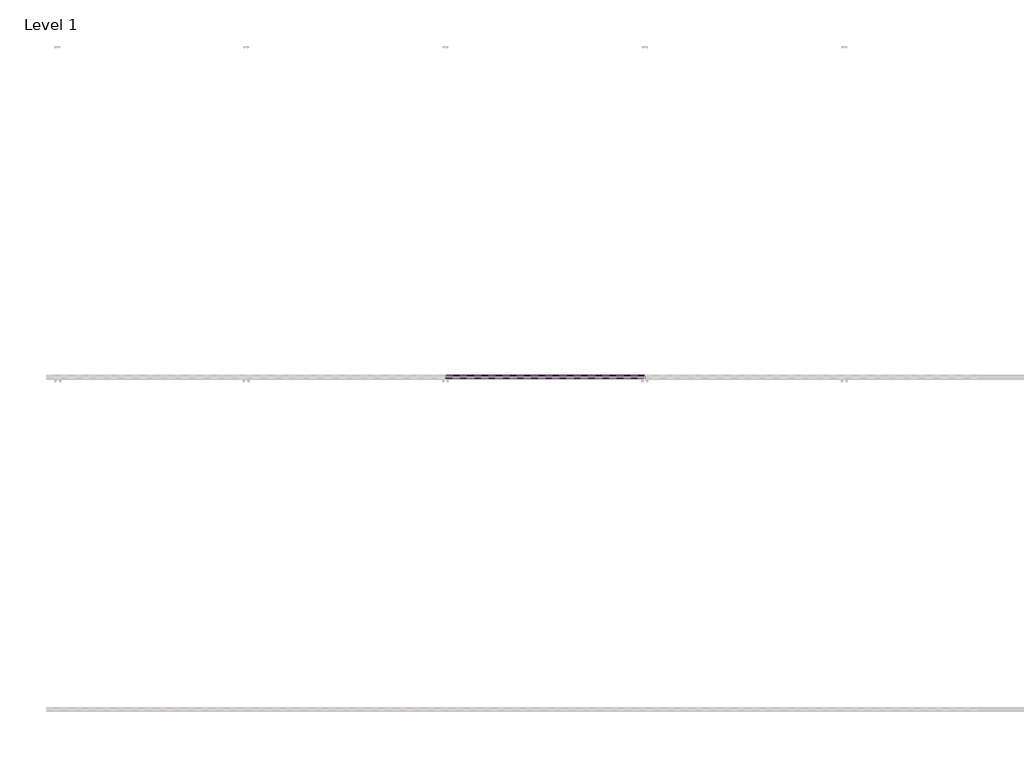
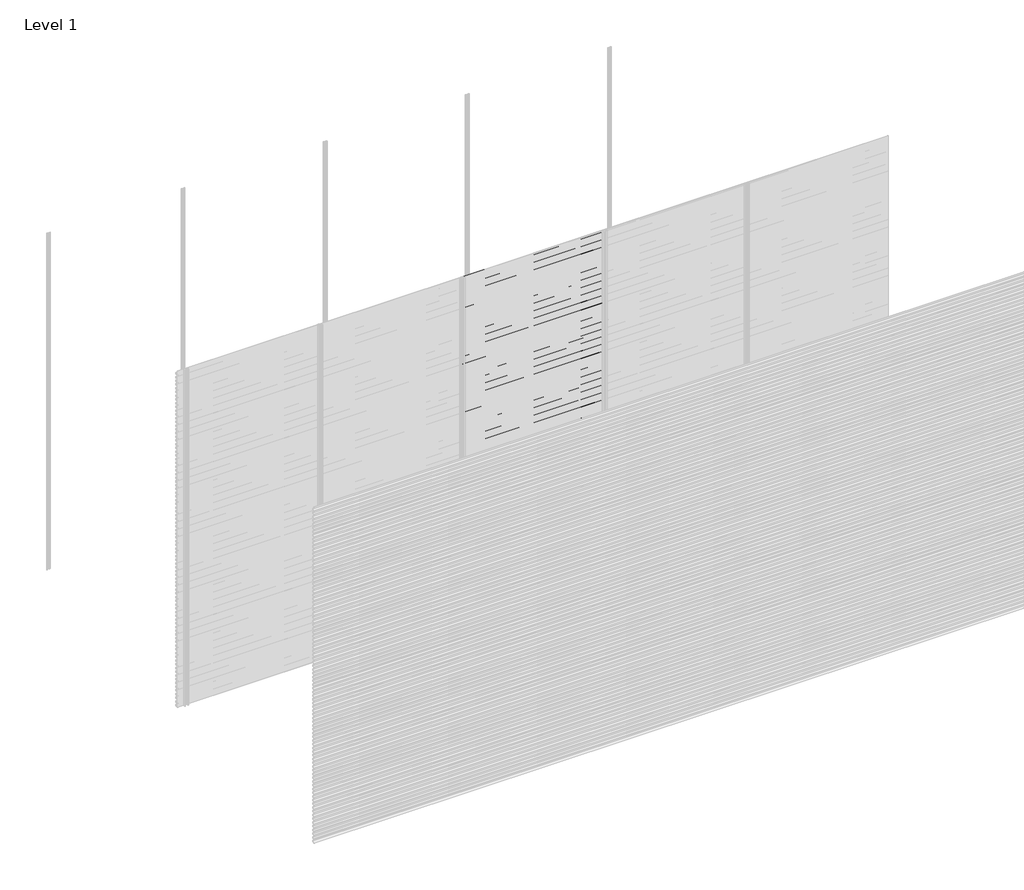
# One storey, part 67 of 77: 72 proxies.
"""IFC4 building model written with IfcOpenShell, lengths in millimetres."""

from ifc_helpers import new_model, si_unit, frame, origin, place, context, project, spatial, polyline, outline, extrude, element, save

model = new_model("IFC4")

# Units and contexts
model_context = context("Model", 3, world=origin())
ifc_project = project(units=[si_unit("LENGTHUNIT", "METRE", prefix="MILLI")], contexts=[model_context])

# Site, building, storey
site = spatial("IfcSite", under=ifc_project)
building = spatial("IfcBuilding", under=site)
storey = spatial("IfcBuildingStorey", under=building, Name="Level 1", Elevation=0.0)

# Proxies
placement = place(None, origin())
element("IfcBuildingElementProxy", 1, Name="Wall Sweeps", at=placement, inside=storey, context=model_context, shape_type="SweptSolid", body=[
    extrude(outline(polyline([(-5978.6, 408.4359887), (-5998.0, 419.6366691), (-5998.0, 432.9), (-5997.0, 432.9), (-5997.0, 420.2191057), (-5977.6, 409.0185105), (-5977.6, 395.4185105), (-5978.6, 396.9953129), (-5978.6, 402.8032062), (-5995.9773817, 394.7), (-5996.4, 395.6063078), (-5978.6, 403.9065841), (-5978.6, 408.4359887)])), frame((1200.0, 0.0, 0.0), z_axis=(1.0, 0.0, 0.0), x_axis=(0.0, 1.0, 0.0)), (0.0, 0.0, 1.0), 1200.0),
])
element("IfcBuildingElementProxy", 2, Name="Wall Sweeps", at=placement, inside=storey, context=model_context, shape_type="SweptSolid", body=[
    extrude(outline(polyline([(-5978.6, 375.1359887), (-5998.0, 386.3366691), (-5998.0, 399.6), (-5997.0, 399.6), (-5997.0, 386.9191057), (-5977.6, 375.7185105), (-5977.6, 362.1185105), (-5978.6, 363.6953129), (-5978.6, 369.5032062), (-5995.9773817, 361.4), (-5996.4, 362.3063078), (-5978.6, 370.6065841), (-5978.6, 375.1359887)])), frame((1200.0, 0.0, 0.0), z_axis=(1.0, 0.0, 0.0), x_axis=(0.0, 1.0, 0.0)), (0.0, 0.0, 1.0), 1200.0),
])
element("IfcBuildingElementProxy", 3, Name="Wall Sweeps", at=placement, inside=storey, context=model_context, shape_type="SweptSolid", body=[
    extrude(outline(polyline([(-5978.6, 341.8359887), (-5998.0, 353.0366691), (-5998.0, 366.3), (-5997.0, 366.3), (-5997.0, 353.6191057), (-5977.6, 342.4185105), (-5977.6, 328.8185105), (-5978.6, 330.3953129), (-5978.6, 336.2032062), (-5995.9773817, 328.1), (-5996.4, 329.0063078), (-5978.6, 337.3065841), (-5978.6, 341.8359887)])), frame((1200.0, 0.0, 0.0), z_axis=(1.0, 0.0, 0.0), x_axis=(0.0, 1.0, 0.0)), (0.0, 0.0, 1.0), 1200.0),
])
element("IfcBuildingElementProxy", 4, Name="Wall Sweeps", at=placement, inside=storey, context=model_context, shape_type="SweptSolid", body=[
    extrude(outline(polyline([(-5978.6, 308.5359887), (-5998.0, 319.7366691), (-5998.0, 333.0), (-5997.0, 333.0), (-5997.0, 320.3191057), (-5977.6, 309.1185105), (-5977.6, 295.5185105), (-5978.6, 297.0953129), (-5978.6, 302.9032062), (-5995.9773817, 294.8), (-5996.4, 295.7063078), (-5978.6, 304.0065841), (-5978.6, 308.5359887)])), frame((1200.0, 0.0, 0.0), z_axis=(1.0, 0.0, 0.0), x_axis=(0.0, 1.0, 0.0)), (0.0, 0.0, 1.0), 1200.0),
])
element("IfcBuildingElementProxy", 5, Name="Wall Sweeps", at=placement, inside=storey, context=model_context, shape_type="SweptSolid", body=[
    extrude(outline(polyline([(-5978.6, 275.2359887), (-5998.0, 286.4366691), (-5998.0, 299.7), (-5997.0, 299.7), (-5997.0, 287.0191057), (-5977.6, 275.8185105), (-5977.6, 262.2185105), (-5978.6, 263.7953129), (-5978.6, 269.6032062), (-5995.9773817, 261.5), (-5996.4, 262.4063078), (-5978.6, 270.7065841), (-5978.6, 275.2359887)])), frame((1200.0, 0.0, 0.0), z_axis=(1.0, 0.0, 0.0), x_axis=(0.0, 1.0, 0.0)), (0.0, 0.0, 1.0), 1200.0),
])
element("IfcBuildingElementProxy", 6, Name="Wall Sweeps", at=placement, inside=storey, context=model_context, shape_type="SweptSolid", body=[
    extrude(outline(polyline([(-5978.6, 241.9359887), (-5998.0, 253.1366691), (-5998.0, 266.4), (-5997.0, 266.4), (-5997.0, 253.7191057), (-5977.6, 242.5185105), (-5977.6, 228.9185105), (-5978.6, 230.4953129), (-5978.6, 236.3032062), (-5995.9773817, 228.2), (-5996.4, 229.1063078), (-5978.6, 237.4065841), (-5978.6, 241.9359887)])), frame((1200.0, 0.0, 0.0), z_axis=(1.0, 0.0, 0.0), x_axis=(0.0, 1.0, 0.0)), (0.0, 0.0, 1.0), 1200.0),
])
element("IfcBuildingElementProxy", 7, Name="Wall Sweeps", at=placement, inside=storey, context=model_context, shape_type="SweptSolid", body=[
    extrude(outline(polyline([(-5978.6, 208.6359887), (-5998.0, 219.8366691), (-5998.0, 233.1), (-5997.0, 233.1), (-5997.0, 220.4191057), (-5977.6, 209.2185105), (-5977.6, 195.6185105), (-5978.6, 197.1953129), (-5978.6, 203.0032062), (-5995.9773817, 194.9), (-5996.4, 195.8063078), (-5978.6, 204.1065841), (-5978.6, 208.6359887)])), frame((1200.0, 0.0, 0.0), z_axis=(1.0, 0.0, 0.0), x_axis=(0.0, 1.0, 0.0)), (0.0, 0.0, 1.0), 1200.0),
])
element("IfcBuildingElementProxy", 8, Name="Wall Sweeps", at=placement, inside=storey, context=model_context, shape_type="SweptSolid", body=[
    extrude(outline(polyline([(-5978.6, 175.3359887), (-5998.0, 186.5366691), (-5998.0, 199.8), (-5997.0, 199.8), (-5997.0, 187.1191057), (-5977.6, 175.9185105), (-5977.6, 162.3185105), (-5978.6, 163.8953129), (-5978.6, 169.7032062), (-5995.9773817, 161.6), (-5996.4, 162.5063078), (-5978.6, 170.8065841), (-5978.6, 175.3359887)])), frame((1200.0, 0.0, 0.0), z_axis=(1.0, 0.0, 0.0), x_axis=(0.0, 1.0, 0.0)), (0.0, 0.0, 1.0), 1200.0),
])
element("IfcBuildingElementProxy", 9, Name="Wall Sweeps", at=placement, inside=storey, context=model_context, shape_type="SweptSolid", body=[
    extrude(outline(polyline([(-5978.6, 142.0359887), (-5998.0, 153.2366691), (-5998.0, 166.5), (-5997.0, 166.5), (-5997.0, 153.8191057), (-5977.6, 142.6185105), (-5977.6, 129.0185105), (-5978.6, 130.5953129), (-5978.6, 136.4032062), (-5995.9773817, 128.3), (-5996.4, 129.2063078), (-5978.6, 137.5065841), (-5978.6, 142.0359887)])), frame((1200.0, 0.0, 0.0), z_axis=(1.0, 0.0, 0.0), x_axis=(0.0, 1.0, 0.0)), (0.0, 0.0, 1.0), 1200.0),
])
element("IfcBuildingElementProxy", 10, Name="Wall Sweeps", at=placement, inside=storey, context=model_context, shape_type="SweptSolid", body=[
    extrude(outline(polyline([(-5978.6, 108.7359887), (-5998.0, 119.9366691), (-5998.0, 133.2), (-5997.0, 133.2), (-5997.0, 120.5191057), (-5977.6, 109.3185105), (-5977.6, 95.7185105), (-5978.6, 97.2953129), (-5978.6, 103.1032062), (-5995.9773817, 95.0), (-5996.4, 95.9063078), (-5978.6, 104.2065841), (-5978.6, 108.7359887)])), frame((1200.0, 0.0, 0.0), z_axis=(1.0, 0.0, 0.0), x_axis=(0.0, 1.0, 0.0)), (0.0, 0.0, 1.0), 1200.0),
])
element("IfcBuildingElementProxy", 11, Name="Wall Sweeps", at=placement, inside=storey, context=model_context, shape_type="SweptSolid", body=[
    extrude(outline(polyline([(-5978.6, 75.4359887), (-5998.0, 86.6366691), (-5998.0, 99.9), (-5997.0, 99.9), (-5997.0, 87.2191057), (-5977.6, 76.0185105), (-5977.6, 62.4185105), (-5978.6, 63.9953129), (-5978.6, 69.8032062), (-5995.9773817, 61.7), (-5996.4, 62.6063078), (-5978.6, 70.9065841), (-5978.6, 75.4359887)])), frame((1200.0, 0.0, 0.0), z_axis=(1.0, 0.0, 0.0), x_axis=(0.0, 1.0, 0.0)), (0.0, 0.0, 1.0), 1200.0),
])
element("IfcBuildingElementProxy", 12, Name="Wall Sweeps", at=placement, inside=storey, context=model_context, shape_type="SweptSolid", body=[
    extrude(outline(polyline([(-5978.6, 42.1359887), (-5998.0, 53.3366691), (-5998.0, 66.6), (-5997.0, 66.6), (-5997.0, 53.9191057), (-5977.6, 42.7185105), (-5977.6, 29.1185105), (-5978.6, 30.6953129), (-5978.6, 36.5032062), (-5995.9773817, 28.4), (-5996.4, 29.3063078), (-5978.6, 37.6065841), (-5978.6, 42.1359887)])), frame((1200.0, 0.0, 0.0), z_axis=(1.0, 0.0, 0.0), x_axis=(0.0, 1.0, 0.0)), (0.0, 0.0, 1.0), 1200.0),
])
element("IfcBuildingElementProxy", 13, Name="Wall Sweeps", at=placement, inside=storey, context=model_context, shape_type="SweptSolid", body=[
    extrude(outline(polyline([(-5978.6, 8.8359887), (-5998.0, 20.0366691), (-5998.0, 33.3), (-5997.0, 33.3), (-5997.0, 20.6191057), (-5977.6, 9.4185105), (-5977.6, -4.1814895), (-5978.6, -2.6046871), (-5978.6, 3.2032062), (-5995.9773817, -4.9), (-5996.4, -3.9936922), (-5978.6, 4.3065841), (-5978.6, 8.8359887)])), frame((1200.0, 0.0, 0.0), z_axis=(1.0, 0.0, 0.0), x_axis=(0.0, 1.0, 0.0)), (0.0, 0.0, 1.0), 1200.0),
])
element("IfcBuildingElementProxy", 14, Name="Wall Sweeps", at=placement, inside=storey, context=model_context, shape_type="SweptSolid", body=[
    extrude(outline(polyline([(-5978.6, 2972.5359887), (-5998.0, 2983.7366691), (-5998.0, 2997.0), (-5997.0, 2997.0), (-5997.0, 2984.3191057), (-5977.6, 2973.1185105), (-5977.6, 2959.5185105), (-5978.6, 2961.0953129), (-5978.6, 2966.9032062), (-5995.9773817, 2958.8), (-5996.4, 2959.7063078), (-5978.6, 2968.0065841), (-5978.6, 2972.5359887)])), frame((2400.0, 0.0, 0.0), z_axis=(1.0, 0.0, 0.0), x_axis=(0.0, 1.0, 0.0)), (0.0, 0.0, 1.0), 1200.0),
])
element("IfcBuildingElementProxy", 15, Name="Wall Sweeps", at=placement, inside=storey, context=model_context, shape_type="SweptSolid", body=[
    extrude(outline(polyline([(-5978.6, 2939.2359887), (-5998.0, 2950.4366691), (-5998.0, 2963.7), (-5997.0, 2963.7), (-5997.0, 2951.0191057), (-5977.6, 2939.8185105), (-5977.6, 2926.2185105), (-5978.6, 2927.7953129), (-5978.6, 2933.6032062), (-5995.9773817, 2925.5), (-5996.4, 2926.4063078), (-5978.6, 2934.7065841), (-5978.6, 2939.2359887)])), frame((2400.0, 0.0, 0.0), z_axis=(1.0, 0.0, 0.0), x_axis=(0.0, 1.0, 0.0)), (0.0, 0.0, 1.0), 1200.0),
])
element("IfcBuildingElementProxy", 16, Name="Wall Sweeps", at=placement, inside=storey, context=model_context, shape_type="SweptSolid", body=[
    extrude(outline(polyline([(-5978.6, 2905.9359887), (-5998.0, 2917.1366691), (-5998.0, 2930.4), (-5997.0, 2930.4), (-5997.0, 2917.7191057), (-5977.6, 2906.5185105), (-5977.6, 2892.9185105), (-5978.6, 2894.4953129), (-5978.6, 2900.3032062), (-5995.9773817, 2892.2), (-5996.4, 2893.1063078), (-5978.6, 2901.4065841), (-5978.6, 2905.9359887)])), frame((2400.0, 0.0, 0.0), z_axis=(1.0, 0.0, 0.0), x_axis=(0.0, 1.0, 0.0)), (0.0, 0.0, 1.0), 1200.0),
])
element("IfcBuildingElementProxy", 17, Name="Wall Sweeps", at=placement, inside=storey, context=model_context, shape_type="SweptSolid", body=[
    extrude(outline(polyline([(-5978.6, 2872.6359887), (-5998.0, 2883.8366691), (-5998.0, 2897.1), (-5997.0, 2897.1), (-5997.0, 2884.4191057), (-5977.6, 2873.2185105), (-5977.6, 2859.6185105), (-5978.6, 2861.1953129), (-5978.6, 2867.0032062), (-5995.9773817, 2858.9), (-5996.4, 2859.8063078), (-5978.6, 2868.1065841), (-5978.6, 2872.6359887)])), frame((2400.0, 0.0, 0.0), z_axis=(1.0, 0.0, 0.0), x_axis=(0.0, 1.0, 0.0)), (0.0, 0.0, 1.0), 1200.0),
])
element("IfcBuildingElementProxy", 18, Name="Wall Sweeps", at=placement, inside=storey, context=model_context, shape_type="SweptSolid", body=[
    extrude(outline(polyline([(-5978.6, 2839.3359887), (-5998.0, 2850.5366691), (-5998.0, 2863.8), (-5997.0, 2863.8), (-5997.0, 2851.1191057), (-5977.6, 2839.9185105), (-5977.6, 2826.3185105), (-5978.6, 2827.8953129), (-5978.6, 2833.7032062), (-5995.9773817, 2825.6), (-5996.4, 2826.5063078), (-5978.6, 2834.8065841), (-5978.6, 2839.3359887)])), frame((2400.0, 0.0, 0.0), z_axis=(1.0, 0.0, 0.0), x_axis=(0.0, 1.0, 0.0)), (0.0, 0.0, 1.0), 1200.0),
])
element("IfcBuildingElementProxy", 19, Name="Wall Sweeps", at=placement, inside=storey, context=model_context, shape_type="SweptSolid", body=[
    extrude(outline(polyline([(-5978.6, 2806.0359887), (-5998.0, 2817.2366691), (-5998.0, 2830.5), (-5997.0, 2830.5), (-5997.0, 2817.8191057), (-5977.6, 2806.6185105), (-5977.6, 2793.0185105), (-5978.6, 2794.5953129), (-5978.6, 2800.4032062), (-5995.9773817, 2792.3), (-5996.4, 2793.2063078), (-5978.6, 2801.5065841), (-5978.6, 2806.0359887)])), frame((2400.0, 0.0, 0.0), z_axis=(1.0, 0.0, 0.0), x_axis=(0.0, 1.0, 0.0)), (0.0, 0.0, 1.0), 1200.0),
])
element("IfcBuildingElementProxy", 20, Name="Wall Sweeps", at=placement, inside=storey, context=model_context, shape_type="SweptSolid", body=[
    extrude(outline(polyline([(-5978.6, 2772.7359887), (-5998.0, 2783.9366691), (-5998.0, 2797.2), (-5997.0, 2797.2), (-5997.0, 2784.5191057), (-5977.6, 2773.3185105), (-5977.6, 2759.7185105), (-5978.6, 2761.2953129), (-5978.6, 2767.1032062), (-5995.9773817, 2759.0), (-5996.4, 2759.9063078), (-5978.6, 2768.2065841), (-5978.6, 2772.7359887)])), frame((2400.0, 0.0, 0.0), z_axis=(1.0, 0.0, 0.0), x_axis=(0.0, 1.0, 0.0)), (0.0, 0.0, 1.0), 1200.0),
])
element("IfcBuildingElementProxy", 21, Name="Wall Sweeps", at=placement, inside=storey, context=model_context, shape_type="SweptSolid", body=[
    extrude(outline(polyline([(-5978.6, 2739.4359887), (-5998.0, 2750.6366691), (-5998.0, 2763.9), (-5997.0, 2763.9), (-5997.0, 2751.2191057), (-5977.6, 2740.0185105), (-5977.6, 2726.4185105), (-5978.6, 2727.9953129), (-5978.6, 2733.8032062), (-5995.9773817, 2725.7), (-5996.4, 2726.6063078), (-5978.6, 2734.9065841), (-5978.6, 2739.4359887)])), frame((2400.0, 0.0, 0.0), z_axis=(1.0, 0.0, 0.0), x_axis=(0.0, 1.0, 0.0)), (0.0, 0.0, 1.0), 1200.0),
])
element("IfcBuildingElementProxy", 22, Name="Wall Sweeps", at=placement, inside=storey, context=model_context, shape_type="SweptSolid", body=[
    extrude(outline(polyline([(-5978.6, 2706.1359887), (-5998.0, 2717.3366691), (-5998.0, 2730.6), (-5997.0, 2730.6), (-5997.0, 2717.9191057), (-5977.6, 2706.7185105), (-5977.6, 2693.1185105), (-5978.6, 2694.6953129), (-5978.6, 2700.5032062), (-5995.9773817, 2692.4), (-5996.4, 2693.3063078), (-5978.6, 2701.6065841), (-5978.6, 2706.1359887)])), frame((2400.0, 0.0, 0.0), z_axis=(1.0, 0.0, 0.0), x_axis=(0.0, 1.0, 0.0)), (0.0, 0.0, 1.0), 1200.0),
])
element("IfcBuildingElementProxy", 23, Name="Wall Sweeps", at=placement, inside=storey, context=model_context, shape_type="SweptSolid", body=[
    extrude(outline(polyline([(-5978.6, 2672.8359887), (-5998.0, 2684.0366691), (-5998.0, 2697.3), (-5997.0, 2697.3), (-5997.0, 2684.6191057), (-5977.6, 2673.4185105), (-5977.6, 2659.8185105), (-5978.6, 2661.3953129), (-5978.6, 2667.2032062), (-5995.9773817, 2659.1), (-5996.4, 2660.0063078), (-5978.6, 2668.3065841), (-5978.6, 2672.8359887)])), frame((2400.0, 0.0, 0.0), z_axis=(1.0, 0.0, 0.0), x_axis=(0.0, 1.0, 0.0)), (0.0, 0.0, 1.0), 1200.0),
])
element("IfcBuildingElementProxy", 24, Name="Wall Sweeps", at=placement, inside=storey, context=model_context, shape_type="SweptSolid", body=[
    extrude(outline(polyline([(-5978.6, 2639.5359887), (-5998.0, 2650.7366691), (-5998.0, 2664.0), (-5997.0, 2664.0), (-5997.0, 2651.3191057), (-5977.6, 2640.1185105), (-5977.6, 2626.5185105), (-5978.6, 2628.0953129), (-5978.6, 2633.9032062), (-5995.9773817, 2625.8), (-5996.4, 2626.7063078), (-5978.6, 2635.0065841), (-5978.6, 2639.5359887)])), frame((2400.0, 0.0, 0.0), z_axis=(1.0, 0.0, 0.0), x_axis=(0.0, 1.0, 0.0)), (0.0, 0.0, 1.0), 1200.0),
])
element("IfcBuildingElementProxy", 25, Name="Wall Sweeps", at=placement, inside=storey, context=model_context, shape_type="SweptSolid", body=[
    extrude(outline(polyline([(-5978.6, 2606.2359887), (-5998.0, 2617.4366691), (-5998.0, 2630.7), (-5997.0, 2630.7), (-5997.0, 2618.0191057), (-5977.6, 2606.8185105), (-5977.6, 2593.2185105), (-5978.6, 2594.7953129), (-5978.6, 2600.6032062), (-5995.9773817, 2592.5), (-5996.4, 2593.4063078), (-5978.6, 2601.7065841), (-5978.6, 2606.2359887)])), frame((2400.0, 0.0, 0.0), z_axis=(1.0, 0.0, 0.0), x_axis=(0.0, 1.0, 0.0)), (0.0, 0.0, 1.0), 1200.0),
])
element("IfcBuildingElementProxy", 26, Name="Wall Sweeps", at=placement, inside=storey, context=model_context, shape_type="SweptSolid", body=[
    extrude(outline(polyline([(-5978.6, 2572.9359887), (-5998.0, 2584.1366691), (-5998.0, 2597.4), (-5997.0, 2597.4), (-5997.0, 2584.7191057), (-5977.6, 2573.5185105), (-5977.6, 2559.9185105), (-5978.6, 2561.4953129), (-5978.6, 2567.3032062), (-5995.9773817, 2559.2), (-5996.4, 2560.1063078), (-5978.6, 2568.4065841), (-5978.6, 2572.9359887)])), frame((2400.0, 0.0, 0.0), z_axis=(1.0, 0.0, 0.0), x_axis=(0.0, 1.0, 0.0)), (0.0, 0.0, 1.0), 1200.0),
])
element("IfcBuildingElementProxy", 27, Name="Wall Sweeps", at=placement, inside=storey, context=model_context, shape_type="SweptSolid", body=[
    extrude(outline(polyline([(-5978.6, 2539.6359887), (-5998.0, 2550.8366691), (-5998.0, 2564.1), (-5997.0, 2564.1), (-5997.0, 2551.4191057), (-5977.6, 2540.2185105), (-5977.6, 2526.6185105), (-5978.6, 2528.1953129), (-5978.6, 2534.0032062), (-5995.9773817, 2525.9), (-5996.4, 2526.8063078), (-5978.6, 2535.1065841), (-5978.6, 2539.6359887)])), frame((2400.0, 0.0, 0.0), z_axis=(1.0, 0.0, 0.0), x_axis=(0.0, 1.0, 0.0)), (0.0, 0.0, 1.0), 1200.0),
])
element("IfcBuildingElementProxy", 28, Name="Wall Sweeps", at=placement, inside=storey, context=model_context, shape_type="SweptSolid", body=[
    extrude(outline(polyline([(-5978.6, 2506.3359887), (-5998.0, 2517.5366691), (-5998.0, 2530.8), (-5997.0, 2530.8), (-5997.0, 2518.1191057), (-5977.6, 2506.9185105), (-5977.6, 2493.3185105), (-5978.6, 2494.8953129), (-5978.6, 2500.7032062), (-5995.9773817, 2492.6), (-5996.4, 2493.5063078), (-5978.6, 2501.8065841), (-5978.6, 2506.3359887)])), frame((2400.0, 0.0, 0.0), z_axis=(1.0, 0.0, 0.0), x_axis=(0.0, 1.0, 0.0)), (0.0, 0.0, 1.0), 1200.0),
])
element("IfcBuildingElementProxy", 29, Name="Wall Sweeps", at=placement, inside=storey, context=model_context, shape_type="SweptSolid", body=[
    extrude(outline(polyline([(-5978.6, 2473.0359887), (-5998.0, 2484.2366691), (-5998.0, 2497.5), (-5997.0, 2497.5), (-5997.0, 2484.8191057), (-5977.6, 2473.6185105), (-5977.6, 2460.0185105), (-5978.6, 2461.5953129), (-5978.6, 2467.4032062), (-5995.9773817, 2459.3), (-5996.4, 2460.2063078), (-5978.6, 2468.5065841), (-5978.6, 2473.0359887)])), frame((2400.0, 0.0, 0.0), z_axis=(1.0, 0.0, 0.0), x_axis=(0.0, 1.0, 0.0)), (0.0, 0.0, 1.0), 1200.0),
])
element("IfcBuildingElementProxy", 30, Name="Wall Sweeps", at=placement, inside=storey, context=model_context, shape_type="SweptSolid", body=[
    extrude(outline(polyline([(-5978.6, 2439.7359887), (-5998.0, 2450.9366691), (-5998.0, 2464.2), (-5997.0, 2464.2), (-5997.0, 2451.5191057), (-5977.6, 2440.3185105), (-5977.6, 2426.7185105), (-5978.6, 2428.2953129), (-5978.6, 2434.1032062), (-5995.9773817, 2426.0), (-5996.4, 2426.9063078), (-5978.6, 2435.2065841), (-5978.6, 2439.7359887)])), frame((2400.0, 0.0, 0.0), z_axis=(1.0, 0.0, 0.0), x_axis=(0.0, 1.0, 0.0)), (0.0, 0.0, 1.0), 1200.0),
])
element("IfcBuildingElementProxy", 31, Name="Wall Sweeps", at=placement, inside=storey, context=model_context, shape_type="SweptSolid", body=[
    extrude(outline(polyline([(-5978.6, 2406.4359887), (-5998.0, 2417.6366691), (-5998.0, 2430.9), (-5997.0, 2430.9), (-5997.0, 2418.2191057), (-5977.6, 2407.0185105), (-5977.6, 2393.4185105), (-5978.6, 2394.9953129), (-5978.6, 2400.8032062), (-5995.9773817, 2392.7), (-5996.4, 2393.6063078), (-5978.6, 2401.9065841), (-5978.6, 2406.4359887)])), frame((2400.0, 0.0, 0.0), z_axis=(1.0, 0.0, 0.0), x_axis=(0.0, 1.0, 0.0)), (0.0, 0.0, 1.0), 1200.0),
])
element("IfcBuildingElementProxy", 32, Name="Wall Sweeps", at=placement, inside=storey, context=model_context, shape_type="SweptSolid", body=[
    extrude(outline(polyline([(-5978.6, 2373.1359887), (-5998.0, 2384.3366691), (-5998.0, 2397.6), (-5997.0, 2397.6), (-5997.0, 2384.9191057), (-5977.6, 2373.7185105), (-5977.6, 2360.1185105), (-5978.6, 2361.6953129), (-5978.6, 2367.5032062), (-5995.9773817, 2359.4), (-5996.4, 2360.3063078), (-5978.6, 2368.6065841), (-5978.6, 2373.1359887)])), frame((2400.0, 0.0, 0.0), z_axis=(1.0, 0.0, 0.0), x_axis=(0.0, 1.0, 0.0)), (0.0, 0.0, 1.0), 1200.0),
])
element("IfcBuildingElementProxy", 33, Name="Wall Sweeps", at=placement, inside=storey, context=model_context, shape_type="SweptSolid", body=[
    extrude(outline(polyline([(-5978.6, 2339.8359887), (-5998.0, 2351.0366691), (-5998.0, 2364.3), (-5997.0, 2364.3), (-5997.0, 2351.6191057), (-5977.6, 2340.4185105), (-5977.6, 2326.8185105), (-5978.6, 2328.3953129), (-5978.6, 2334.2032062), (-5995.9773817, 2326.1), (-5996.4, 2327.0063078), (-5978.6, 2335.3065841), (-5978.6, 2339.8359887)])), frame((2400.0, 0.0, 0.0), z_axis=(1.0, 0.0, 0.0), x_axis=(0.0, 1.0, 0.0)), (0.0, 0.0, 1.0), 1200.0),
])
element("IfcBuildingElementProxy", 34, Name="Wall Sweeps", at=placement, inside=storey, context=model_context, shape_type="SweptSolid", body=[
    extrude(outline(polyline([(-5978.6, 2306.5359887), (-5998.0, 2317.7366691), (-5998.0, 2331.0), (-5997.0, 2331.0), (-5997.0, 2318.3191057), (-5977.6, 2307.1185105), (-5977.6, 2293.5185105), (-5978.6, 2295.0953129), (-5978.6, 2300.9032062), (-5995.9773817, 2292.8), (-5996.4, 2293.7063078), (-5978.6, 2302.0065841), (-5978.6, 2306.5359887)])), frame((2400.0, 0.0, 0.0), z_axis=(1.0, 0.0, 0.0), x_axis=(0.0, 1.0, 0.0)), (0.0, 0.0, 1.0), 1200.0),
])
element("IfcBuildingElementProxy", 35, Name="Wall Sweeps", at=placement, inside=storey, context=model_context, shape_type="SweptSolid", body=[
    extrude(outline(polyline([(-5978.6, 2273.2359887), (-5998.0, 2284.4366691), (-5998.0, 2297.7), (-5997.0, 2297.7), (-5997.0, 2285.0191057), (-5977.6, 2273.8185105), (-5977.6, 2260.2185105), (-5978.6, 2261.7953129), (-5978.6, 2267.6032062), (-5995.9773817, 2259.5), (-5996.4, 2260.4063078), (-5978.6, 2268.7065841), (-5978.6, 2273.2359887)])), frame((2400.0, 0.0, 0.0), z_axis=(1.0, 0.0, 0.0), x_axis=(0.0, 1.0, 0.0)), (0.0, 0.0, 1.0), 1200.0),
])
element("IfcBuildingElementProxy", 36, Name="Wall Sweeps", at=placement, inside=storey, context=model_context, shape_type="SweptSolid", body=[
    extrude(outline(polyline([(-5978.6, 2239.9359887), (-5998.0, 2251.1366691), (-5998.0, 2264.4), (-5997.0, 2264.4), (-5997.0, 2251.7191057), (-5977.6, 2240.5185105), (-5977.6, 2226.9185105), (-5978.6, 2228.4953129), (-5978.6, 2234.3032062), (-5995.9773817, 2226.2), (-5996.4, 2227.1063078), (-5978.6, 2235.4065841), (-5978.6, 2239.9359887)])), frame((2400.0, 0.0, 0.0), z_axis=(1.0, 0.0, 0.0), x_axis=(0.0, 1.0, 0.0)), (0.0, 0.0, 1.0), 1200.0),
])
element("IfcBuildingElementProxy", 37, Name="Wall Sweeps", at=placement, inside=storey, context=model_context, shape_type="SweptSolid", body=[
    extrude(outline(polyline([(-5978.6, 2206.6359887), (-5998.0, 2217.8366691), (-5998.0, 2231.1), (-5997.0, 2231.1), (-5997.0, 2218.4191057), (-5977.6, 2207.2185105), (-5977.6, 2193.6185105), (-5978.6, 2195.1953129), (-5978.6, 2201.0032062), (-5995.9773817, 2192.9), (-5996.4, 2193.8063078), (-5978.6, 2202.1065841), (-5978.6, 2206.6359887)])), frame((2400.0, 0.0, 0.0), z_axis=(1.0, 0.0, 0.0), x_axis=(0.0, 1.0, 0.0)), (0.0, 0.0, 1.0), 1200.0),
])
element("IfcBuildingElementProxy", 38, Name="Wall Sweeps", at=placement, inside=storey, context=model_context, shape_type="SweptSolid", body=[
    extrude(outline(polyline([(-5978.6, 2173.3359887), (-5998.0, 2184.5366691), (-5998.0, 2197.8), (-5997.0, 2197.8), (-5997.0, 2185.1191057), (-5977.6, 2173.9185105), (-5977.6, 2160.3185105), (-5978.6, 2161.8953129), (-5978.6, 2167.7032062), (-5995.9773817, 2159.6), (-5996.4, 2160.5063078), (-5978.6, 2168.8065841), (-5978.6, 2173.3359887)])), frame((2400.0, 0.0, 0.0), z_axis=(1.0, 0.0, 0.0), x_axis=(0.0, 1.0, 0.0)), (0.0, 0.0, 1.0), 1200.0),
])
element("IfcBuildingElementProxy", 39, Name="Wall Sweeps", at=placement, inside=storey, context=model_context, shape_type="SweptSolid", body=[
    extrude(outline(polyline([(-5978.6, 2140.0359887), (-5998.0, 2151.2366691), (-5998.0, 2164.5), (-5997.0, 2164.5), (-5997.0, 2151.8191057), (-5977.6, 2140.6185105), (-5977.6, 2127.0185105), (-5978.6, 2128.5953129), (-5978.6, 2134.4032062), (-5995.9773817, 2126.3), (-5996.4, 2127.2063078), (-5978.6, 2135.5065841), (-5978.6, 2140.0359887)])), frame((2400.0, 0.0, 0.0), z_axis=(1.0, 0.0, 0.0), x_axis=(0.0, 1.0, 0.0)), (0.0, 0.0, 1.0), 1200.0),
])
element("IfcBuildingElementProxy", 40, Name="Wall Sweeps", at=placement, inside=storey, context=model_context, shape_type="SweptSolid", body=[
    extrude(outline(polyline([(-5978.6, 2106.7359887), (-5998.0, 2117.9366691), (-5998.0, 2131.2), (-5997.0, 2131.2), (-5997.0, 2118.5191057), (-5977.6, 2107.3185105), (-5977.6, 2093.7185105), (-5978.6, 2095.2953129), (-5978.6, 2101.1032062), (-5995.9773817, 2093.0), (-5996.4, 2093.9063078), (-5978.6, 2102.2065841), (-5978.6, 2106.7359887)])), frame((2400.0, 0.0, 0.0), z_axis=(1.0, 0.0, 0.0), x_axis=(0.0, 1.0, 0.0)), (0.0, 0.0, 1.0), 1200.0),
])
element("IfcBuildingElementProxy", 41, Name="Wall Sweeps", at=placement, inside=storey, context=model_context, shape_type="SweptSolid", body=[
    extrude(outline(polyline([(-5978.6, 2073.4359887), (-5998.0, 2084.6366691), (-5998.0, 2097.9), (-5997.0, 2097.9), (-5997.0, 2085.2191057), (-5977.6, 2074.0185105), (-5977.6, 2060.4185105), (-5978.6, 2061.9953129), (-5978.6, 2067.8032062), (-5995.9773817, 2059.7), (-5996.4, 2060.6063078), (-5978.6, 2068.9065841), (-5978.6, 2073.4359887)])), frame((2400.0, 0.0, 0.0), z_axis=(1.0, 0.0, 0.0), x_axis=(0.0, 1.0, 0.0)), (0.0, 0.0, 1.0), 1200.0),
])
element("IfcBuildingElementProxy", 42, Name="Wall Sweeps", at=placement, inside=storey, context=model_context, shape_type="SweptSolid", body=[
    extrude(outline(polyline([(-5978.6, 2040.1359887), (-5998.0, 2051.3366691), (-5998.0, 2064.6), (-5997.0, 2064.6), (-5997.0, 2051.9191057), (-5977.6, 2040.7185105), (-5977.6, 2027.1185105), (-5978.6, 2028.6953129), (-5978.6, 2034.5032062), (-5995.9773817, 2026.4), (-5996.4, 2027.3063078), (-5978.6, 2035.6065841), (-5978.6, 2040.1359887)])), frame((2400.0, 0.0, 0.0), z_axis=(1.0, 0.0, 0.0), x_axis=(0.0, 1.0, 0.0)), (0.0, 0.0, 1.0), 1200.0),
])
element("IfcBuildingElementProxy", 43, Name="Wall Sweeps", at=placement, inside=storey, context=model_context, shape_type="SweptSolid", body=[
    extrude(outline(polyline([(-5978.6, 2006.8359887), (-5998.0, 2018.0366691), (-5998.0, 2031.3), (-5997.0, 2031.3), (-5997.0, 2018.6191057), (-5977.6, 2007.4185105), (-5977.6, 1993.8185105), (-5978.6, 1995.3953129), (-5978.6, 2001.2032062), (-5995.9773817, 1993.1), (-5996.4, 1994.0063078), (-5978.6, 2002.3065841), (-5978.6, 2006.8359887)])), frame((2400.0, 0.0, 0.0), z_axis=(1.0, 0.0, 0.0), x_axis=(0.0, 1.0, 0.0)), (0.0, 0.0, 1.0), 1200.0),
])
element("IfcBuildingElementProxy", 44, Name="Wall Sweeps", at=placement, inside=storey, context=model_context, shape_type="SweptSolid", body=[
    extrude(outline(polyline([(-5978.6, 1973.5359887), (-5998.0, 1984.7366691), (-5998.0, 1998.0), (-5997.0, 1998.0), (-5997.0, 1985.3191057), (-5977.6, 1974.1185105), (-5977.6, 1960.5185105), (-5978.6, 1962.0953129), (-5978.6, 1967.9032062), (-5995.9773817, 1959.8), (-5996.4, 1960.7063078), (-5978.6, 1969.0065841), (-5978.6, 1973.5359887)])), frame((2400.0, 0.0, 0.0), z_axis=(1.0, 0.0, 0.0), x_axis=(0.0, 1.0, 0.0)), (0.0, 0.0, 1.0), 1200.0),
])
element("IfcBuildingElementProxy", 45, Name="Wall Sweeps", at=placement, inside=storey, context=model_context, shape_type="SweptSolid", body=[
    extrude(outline(polyline([(-5978.6, 1940.2359887), (-5998.0, 1951.4366691), (-5998.0, 1964.7), (-5997.0, 1964.7), (-5997.0, 1952.0191057), (-5977.6, 1940.8185105), (-5977.6, 1927.2185105), (-5978.6, 1928.7953129), (-5978.6, 1934.6032062), (-5995.9773817, 1926.5), (-5996.4, 1927.4063078), (-5978.6, 1935.7065841), (-5978.6, 1940.2359887)])), frame((2400.0, 0.0, 0.0), z_axis=(1.0, 0.0, 0.0), x_axis=(0.0, 1.0, 0.0)), (0.0, 0.0, 1.0), 1200.0),
])
element("IfcBuildingElementProxy", 46, Name="Wall Sweeps", at=placement, inside=storey, context=model_context, shape_type="SweptSolid", body=[
    extrude(outline(polyline([(-5978.6, 1906.9359887), (-5998.0, 1918.1366691), (-5998.0, 1931.4), (-5997.0, 1931.4), (-5997.0, 1918.7191057), (-5977.6, 1907.5185105), (-5977.6, 1893.9185105), (-5978.6, 1895.4953129), (-5978.6, 1901.3032062), (-5995.9773817, 1893.2), (-5996.4, 1894.1063078), (-5978.6, 1902.4065841), (-5978.6, 1906.9359887)])), frame((2400.0, 0.0, 0.0), z_axis=(1.0, 0.0, 0.0), x_axis=(0.0, 1.0, 0.0)), (0.0, 0.0, 1.0), 1200.0),
])
element("IfcBuildingElementProxy", 47, Name="Wall Sweeps", at=placement, inside=storey, context=model_context, shape_type="SweptSolid", body=[
    extrude(outline(polyline([(-5978.6, 1873.6359887), (-5998.0, 1884.8366691), (-5998.0, 1898.1), (-5997.0, 1898.1), (-5997.0, 1885.4191057), (-5977.6, 1874.2185105), (-5977.6, 1860.6185105), (-5978.6, 1862.1953129), (-5978.6, 1868.0032062), (-5995.9773817, 1859.9), (-5996.4, 1860.8063078), (-5978.6, 1869.1065841), (-5978.6, 1873.6359887)])), frame((2400.0, 0.0, 0.0), z_axis=(1.0, 0.0, 0.0), x_axis=(0.0, 1.0, 0.0)), (0.0, 0.0, 1.0), 1200.0),
])
element("IfcBuildingElementProxy", 48, Name="Wall Sweeps", at=placement, inside=storey, context=model_context, shape_type="SweptSolid", body=[
    extrude(outline(polyline([(-5978.6, 1840.3359887), (-5998.0, 1851.5366691), (-5998.0, 1864.8), (-5997.0, 1864.8), (-5997.0, 1852.1191057), (-5977.6, 1840.9185105), (-5977.6, 1827.3185105), (-5978.6, 1828.8953129), (-5978.6, 1834.7032062), (-5995.9773817, 1826.6), (-5996.4, 1827.5063078), (-5978.6, 1835.8065841), (-5978.6, 1840.3359887)])), frame((2400.0, 0.0, 0.0), z_axis=(1.0, 0.0, 0.0), x_axis=(0.0, 1.0, 0.0)), (0.0, 0.0, 1.0), 1200.0),
])
element("IfcBuildingElementProxy", 49, Name="Wall Sweeps", at=placement, inside=storey, context=model_context, shape_type="SweptSolid", body=[
    extrude(outline(polyline([(-5978.6, 1807.0359887), (-5998.0, 1818.2366691), (-5998.0, 1831.5), (-5997.0, 1831.5), (-5997.0, 1818.8191057), (-5977.6, 1807.6185105), (-5977.6, 1794.0185105), (-5978.6, 1795.5953129), (-5978.6, 1801.4032062), (-5995.9773817, 1793.3), (-5996.4, 1794.2063078), (-5978.6, 1802.5065841), (-5978.6, 1807.0359887)])), frame((2400.0, 0.0, 0.0), z_axis=(1.0, 0.0, 0.0), x_axis=(0.0, 1.0, 0.0)), (0.0, 0.0, 1.0), 1200.0),
])
element("IfcBuildingElementProxy", 50, Name="Wall Sweeps", at=placement, inside=storey, context=model_context, shape_type="SweptSolid", body=[
    extrude(outline(polyline([(-5978.6, 1773.7359887), (-5998.0, 1784.9366691), (-5998.0, 1798.2), (-5997.0, 1798.2), (-5997.0, 1785.5191057), (-5977.6, 1774.3185105), (-5977.6, 1760.7185105), (-5978.6, 1762.2953129), (-5978.6, 1768.1032062), (-5995.9773817, 1760.0), (-5996.4, 1760.9063078), (-5978.6, 1769.2065841), (-5978.6, 1773.7359887)])), frame((2400.0, 0.0, 0.0), z_axis=(1.0, 0.0, 0.0), x_axis=(0.0, 1.0, 0.0)), (0.0, 0.0, 1.0), 1200.0),
])
element("IfcBuildingElementProxy", 51, Name="Wall Sweeps", at=placement, inside=storey, context=model_context, shape_type="SweptSolid", body=[
    extrude(outline(polyline([(-5978.6, 1740.4359887), (-5998.0, 1751.6366691), (-5998.0, 1764.9), (-5997.0, 1764.9), (-5997.0, 1752.2191057), (-5977.6, 1741.0185105), (-5977.6, 1727.4185105), (-5978.6, 1728.9953129), (-5978.6, 1734.8032062), (-5995.9773817, 1726.7), (-5996.4, 1727.6063078), (-5978.6, 1735.9065841), (-5978.6, 1740.4359887)])), frame((2400.0, 0.0, 0.0), z_axis=(1.0, 0.0, 0.0), x_axis=(0.0, 1.0, 0.0)), (0.0, 0.0, 1.0), 1200.0),
])
element("IfcBuildingElementProxy", 52, Name="Wall Sweeps", at=placement, inside=storey, context=model_context, shape_type="SweptSolid", body=[
    extrude(outline(polyline([(-5978.6, 1707.1359887), (-5998.0, 1718.3366691), (-5998.0, 1731.6), (-5997.0, 1731.6), (-5997.0, 1718.9191057), (-5977.6, 1707.7185105), (-5977.6, 1694.1185105), (-5978.6, 1695.6953129), (-5978.6, 1701.5032062), (-5995.9773817, 1693.4), (-5996.4, 1694.3063078), (-5978.6, 1702.6065841), (-5978.6, 1707.1359887)])), frame((2400.0, 0.0, 0.0), z_axis=(1.0, 0.0, 0.0), x_axis=(0.0, 1.0, 0.0)), (0.0, 0.0, 1.0), 1200.0),
])
element("IfcBuildingElementProxy", 53, Name="Wall Sweeps", at=placement, inside=storey, context=model_context, shape_type="SweptSolid", body=[
    extrude(outline(polyline([(-5978.6, 1673.8359887), (-5998.0, 1685.0366691), (-5998.0, 1698.3), (-5997.0, 1698.3), (-5997.0, 1685.6191057), (-5977.6, 1674.4185105), (-5977.6, 1660.8185105), (-5978.6, 1662.3953129), (-5978.6, 1668.2032062), (-5995.9773817, 1660.1), (-5996.4, 1661.0063078), (-5978.6, 1669.3065841), (-5978.6, 1673.8359887)])), frame((2400.0, 0.0, 0.0), z_axis=(1.0, 0.0, 0.0), x_axis=(0.0, 1.0, 0.0)), (0.0, 0.0, 1.0), 1200.0),
])
element("IfcBuildingElementProxy", 54, Name="Wall Sweeps", at=placement, inside=storey, context=model_context, shape_type="SweptSolid", body=[
    extrude(outline(polyline([(-5978.6, 1640.5359887), (-5998.0, 1651.7366691), (-5998.0, 1665.0), (-5997.0, 1665.0), (-5997.0, 1652.3191057), (-5977.6, 1641.1185105), (-5977.6, 1627.5185105), (-5978.6, 1629.0953129), (-5978.6, 1634.9032062), (-5995.9773817, 1626.8), (-5996.4, 1627.7063078), (-5978.6, 1636.0065841), (-5978.6, 1640.5359887)])), frame((2400.0, 0.0, 0.0), z_axis=(1.0, 0.0, 0.0), x_axis=(0.0, 1.0, 0.0)), (0.0, 0.0, 1.0), 1200.0),
])
element("IfcBuildingElementProxy", 55, Name="Wall Sweeps", at=placement, inside=storey, context=model_context, shape_type="SweptSolid", body=[
    extrude(outline(polyline([(-5978.6, 1607.2359887), (-5998.0, 1618.4366691), (-5998.0, 1631.7), (-5997.0, 1631.7), (-5997.0, 1619.0191057), (-5977.6, 1607.8185105), (-5977.6, 1594.2185105), (-5978.6, 1595.7953129), (-5978.6, 1601.6032062), (-5995.9773817, 1593.5), (-5996.4, 1594.4063078), (-5978.6, 1602.7065841), (-5978.6, 1607.2359887)])), frame((2400.0, 0.0, 0.0), z_axis=(1.0, 0.0, 0.0), x_axis=(0.0, 1.0, 0.0)), (0.0, 0.0, 1.0), 1200.0),
])
element("IfcBuildingElementProxy", 56, Name="Wall Sweeps", at=placement, inside=storey, context=model_context, shape_type="SweptSolid", body=[
    extrude(outline(polyline([(-5978.6, 1573.9359887), (-5998.0, 1585.1366691), (-5998.0, 1598.4), (-5997.0, 1598.4), (-5997.0, 1585.7191057), (-5977.6, 1574.5185105), (-5977.6, 1560.9185105), (-5978.6, 1562.4953129), (-5978.6, 1568.3032062), (-5995.9773817, 1560.2), (-5996.4, 1561.1063078), (-5978.6, 1569.4065841), (-5978.6, 1573.9359887)])), frame((2400.0, 0.0, 0.0), z_axis=(1.0, 0.0, 0.0), x_axis=(0.0, 1.0, 0.0)), (0.0, 0.0, 1.0), 1200.0),
])
element("IfcBuildingElementProxy", 57, Name="Wall Sweeps", at=placement, inside=storey, context=model_context, shape_type="SweptSolid", body=[
    extrude(outline(polyline([(-5978.6, 1540.6359887), (-5998.0, 1551.8366691), (-5998.0, 1565.1), (-5997.0, 1565.1), (-5997.0, 1552.4191057), (-5977.6, 1541.2185105), (-5977.6, 1527.6185105), (-5978.6, 1529.1953129), (-5978.6, 1535.0032062), (-5995.9773817, 1526.9), (-5996.4, 1527.8063078), (-5978.6, 1536.1065841), (-5978.6, 1540.6359887)])), frame((2400.0, 0.0, 0.0), z_axis=(1.0, 0.0, 0.0), x_axis=(0.0, 1.0, 0.0)), (0.0, 0.0, 1.0), 1200.0),
])
element("IfcBuildingElementProxy", 58, Name="Wall Sweeps", at=placement, inside=storey, context=model_context, shape_type="SweptSolid", body=[
    extrude(outline(polyline([(-5978.6, 1507.3359887), (-5998.0, 1518.5366691), (-5998.0, 1531.8), (-5997.0, 1531.8), (-5997.0, 1519.1191057), (-5977.6, 1507.9185105), (-5977.6, 1494.3185105), (-5978.6, 1495.8953129), (-5978.6, 1501.7032062), (-5995.9773817, 1493.6), (-5996.4, 1494.5063078), (-5978.6, 1502.8065841), (-5978.6, 1507.3359887)])), frame((2400.0, 0.0, 0.0), z_axis=(1.0, 0.0, 0.0), x_axis=(0.0, 1.0, 0.0)), (0.0, 0.0, 1.0), 1200.0),
])
element("IfcBuildingElementProxy", 59, Name="Wall Sweeps", at=placement, inside=storey, context=model_context, shape_type="SweptSolid", body=[
    extrude(outline(polyline([(-5978.6, 1474.0359887), (-5998.0, 1485.2366691), (-5998.0, 1498.5), (-5997.0, 1498.5), (-5997.0, 1485.8191057), (-5977.6, 1474.6185105), (-5977.6, 1461.0185105), (-5978.6, 1462.5953129), (-5978.6, 1468.4032062), (-5995.9773817, 1460.3), (-5996.4, 1461.2063078), (-5978.6, 1469.5065841), (-5978.6, 1474.0359887)])), frame((2400.0, 0.0, 0.0), z_axis=(1.0, 0.0, 0.0), x_axis=(0.0, 1.0, 0.0)), (0.0, 0.0, 1.0), 1200.0),
])
element("IfcBuildingElementProxy", 60, Name="Wall Sweeps", at=placement, inside=storey, context=model_context, shape_type="SweptSolid", body=[
    extrude(outline(polyline([(-5978.6, 1440.7359887), (-5998.0, 1451.9366691), (-5998.0, 1465.2), (-5997.0, 1465.2), (-5997.0, 1452.5191057), (-5977.6, 1441.3185105), (-5977.6, 1427.7185105), (-5978.6, 1429.2953129), (-5978.6, 1435.1032062), (-5995.9773817, 1427.0), (-5996.4, 1427.9063078), (-5978.6, 1436.2065841), (-5978.6, 1440.7359887)])), frame((2400.0, 0.0, 0.0), z_axis=(1.0, 0.0, 0.0), x_axis=(0.0, 1.0, 0.0)), (0.0, 0.0, 1.0), 1200.0),
])
element("IfcBuildingElementProxy", 61, Name="Wall Sweeps", at=placement, inside=storey, context=model_context, shape_type="SweptSolid", body=[
    extrude(outline(polyline([(-5978.6, 1407.4359887), (-5998.0, 1418.6366691), (-5998.0, 1431.9), (-5997.0, 1431.9), (-5997.0, 1419.2191057), (-5977.6, 1408.0185105), (-5977.6, 1394.4185105), (-5978.6, 1395.9953129), (-5978.6, 1401.8032062), (-5995.9773817, 1393.7), (-5996.4, 1394.6063078), (-5978.6, 1402.9065841), (-5978.6, 1407.4359887)])), frame((2400.0, 0.0, 0.0), z_axis=(1.0, 0.0, 0.0), x_axis=(0.0, 1.0, 0.0)), (0.0, 0.0, 1.0), 1200.0),
])
element("IfcBuildingElementProxy", 62, Name="Wall Sweeps", at=placement, inside=storey, context=model_context, shape_type="SweptSolid", body=[
    extrude(outline(polyline([(-5978.6, 1374.1359887), (-5998.0, 1385.3366691), (-5998.0, 1398.6), (-5997.0, 1398.6), (-5997.0, 1385.9191057), (-5977.6, 1374.7185105), (-5977.6, 1361.1185105), (-5978.6, 1362.6953129), (-5978.6, 1368.5032062), (-5995.9773817, 1360.4), (-5996.4, 1361.3063078), (-5978.6, 1369.6065841), (-5978.6, 1374.1359887)])), frame((2400.0, 0.0, 0.0), z_axis=(1.0, 0.0, 0.0), x_axis=(0.0, 1.0, 0.0)), (0.0, 0.0, 1.0), 1200.0),
])
element("IfcBuildingElementProxy", 63, Name="Wall Sweeps", at=placement, inside=storey, context=model_context, shape_type="SweptSolid", body=[
    extrude(outline(polyline([(-5978.6, 1340.8359887), (-5998.0, 1352.0366691), (-5998.0, 1365.3), (-5997.0, 1365.3), (-5997.0, 1352.6191057), (-5977.6, 1341.4185105), (-5977.6, 1327.8185105), (-5978.6, 1329.3953129), (-5978.6, 1335.2032062), (-5995.9773817, 1327.1), (-5996.4, 1328.0063078), (-5978.6, 1336.3065841), (-5978.6, 1340.8359887)])), frame((2400.0, 0.0, 0.0), z_axis=(1.0, 0.0, 0.0), x_axis=(0.0, 1.0, 0.0)), (0.0, 0.0, 1.0), 1200.0),
])
element("IfcBuildingElementProxy", 64, Name="Wall Sweeps", at=placement, inside=storey, context=model_context, shape_type="SweptSolid", body=[
    extrude(outline(polyline([(-5978.6, 1307.5359887), (-5998.0, 1318.7366691), (-5998.0, 1332.0), (-5997.0, 1332.0), (-5997.0, 1319.3191057), (-5977.6, 1308.1185105), (-5977.6, 1294.5185105), (-5978.6, 1296.0953129), (-5978.6, 1301.9032062), (-5995.9773817, 1293.8), (-5996.4, 1294.7063078), (-5978.6, 1303.0065841), (-5978.6, 1307.5359887)])), frame((2400.0, 0.0, 0.0), z_axis=(1.0, 0.0, 0.0), x_axis=(0.0, 1.0, 0.0)), (0.0, 0.0, 1.0), 1200.0),
])
element("IfcBuildingElementProxy", 65, Name="Wall Sweeps", at=placement, inside=storey, context=model_context, shape_type="SweptSolid", body=[
    extrude(outline(polyline([(-5978.6, 1274.2359887), (-5998.0, 1285.4366691), (-5998.0, 1298.7), (-5997.0, 1298.7), (-5997.0, 1286.0191057), (-5977.6, 1274.8185105), (-5977.6, 1261.2185105), (-5978.6, 1262.7953129), (-5978.6, 1268.6032062), (-5995.9773817, 1260.5), (-5996.4, 1261.4063078), (-5978.6, 1269.7065841), (-5978.6, 1274.2359887)])), frame((2400.0, 0.0, 0.0), z_axis=(1.0, 0.0, 0.0), x_axis=(0.0, 1.0, 0.0)), (0.0, 0.0, 1.0), 1200.0),
])
element("IfcBuildingElementProxy", 66, Name="Wall Sweeps", at=placement, inside=storey, context=model_context, shape_type="SweptSolid", body=[
    extrude(outline(polyline([(-5978.6, 1240.9359887), (-5998.0, 1252.1366691), (-5998.0, 1265.4), (-5997.0, 1265.4), (-5997.0, 1252.7191057), (-5977.6, 1241.5185105), (-5977.6, 1227.9185105), (-5978.6, 1229.4953129), (-5978.6, 1235.3032062), (-5995.9773817, 1227.2), (-5996.4, 1228.1063078), (-5978.6, 1236.4065841), (-5978.6, 1240.9359887)])), frame((2400.0, 0.0, 0.0), z_axis=(1.0, 0.0, 0.0), x_axis=(0.0, 1.0, 0.0)), (0.0, 0.0, 1.0), 1200.0),
])
element("IfcBuildingElementProxy", 67, Name="Wall Sweeps", at=placement, inside=storey, context=model_context, shape_type="SweptSolid", body=[
    extrude(outline(polyline([(-5978.6, 1207.6359887), (-5998.0, 1218.8366691), (-5998.0, 1232.1), (-5997.0, 1232.1), (-5997.0, 1219.4191057), (-5977.6, 1208.2185105), (-5977.6, 1194.6185105), (-5978.6, 1196.1953129), (-5978.6, 1202.0032062), (-5995.9773817, 1193.9), (-5996.4, 1194.8063078), (-5978.6, 1203.1065841), (-5978.6, 1207.6359887)])), frame((2400.0, 0.0, 0.0), z_axis=(1.0, 0.0, 0.0), x_axis=(0.0, 1.0, 0.0)), (0.0, 0.0, 1.0), 1200.0),
])
element("IfcBuildingElementProxy", 68, Name="Wall Sweeps", at=placement, inside=storey, context=model_context, shape_type="SweptSolid", body=[
    extrude(outline(polyline([(-5978.6, 1174.3359887), (-5998.0, 1185.5366691), (-5998.0, 1198.8), (-5997.0, 1198.8), (-5997.0, 1186.1191057), (-5977.6, 1174.9185105), (-5977.6, 1161.3185105), (-5978.6, 1162.8953129), (-5978.6, 1168.7032062), (-5995.9773817, 1160.6), (-5996.4, 1161.5063078), (-5978.6, 1169.8065841), (-5978.6, 1174.3359887)])), frame((2400.0, 0.0, 0.0), z_axis=(1.0, 0.0, 0.0), x_axis=(0.0, 1.0, 0.0)), (0.0, 0.0, 1.0), 1200.0),
])
element("IfcBuildingElementProxy", 69, Name="Wall Sweeps", at=placement, inside=storey, context=model_context, shape_type="SweptSolid", body=[
    extrude(outline(polyline([(-5978.6, 1141.0359887), (-5998.0, 1152.2366691), (-5998.0, 1165.5), (-5997.0, 1165.5), (-5997.0, 1152.8191057), (-5977.6, 1141.6185105), (-5977.6, 1128.0185105), (-5978.6, 1129.5953129), (-5978.6, 1135.4032062), (-5995.9773817, 1127.3), (-5996.4, 1128.2063078), (-5978.6, 1136.5065841), (-5978.6, 1141.0359887)])), frame((2400.0, 0.0, 0.0), z_axis=(1.0, 0.0, 0.0), x_axis=(0.0, 1.0, 0.0)), (0.0, 0.0, 1.0), 1200.0),
])
element("IfcBuildingElementProxy", 70, Name="Wall Sweeps", at=placement, inside=storey, context=model_context, shape_type="SweptSolid", body=[
    extrude(outline(polyline([(-5978.6, 1107.7359887), (-5998.0, 1118.9366691), (-5998.0, 1132.2), (-5997.0, 1132.2), (-5997.0, 1119.5191057), (-5977.6, 1108.3185105), (-5977.6, 1094.7185105), (-5978.6, 1096.2953129), (-5978.6, 1102.1032062), (-5995.9773817, 1094.0), (-5996.4, 1094.9063078), (-5978.6, 1103.2065841), (-5978.6, 1107.7359887)])), frame((2400.0, 0.0, 0.0), z_axis=(1.0, 0.0, 0.0), x_axis=(0.0, 1.0, 0.0)), (0.0, 0.0, 1.0), 1200.0),
])
element("IfcBuildingElementProxy", 71, Name="Wall Sweeps", at=placement, inside=storey, context=model_context, shape_type="SweptSolid", body=[
    extrude(outline(polyline([(-5978.6, 1074.4359887), (-5998.0, 1085.6366691), (-5998.0, 1098.9), (-5997.0, 1098.9), (-5997.0, 1086.2191057), (-5977.6, 1075.0185105), (-5977.6, 1061.4185105), (-5978.6, 1062.9953129), (-5978.6, 1068.8032062), (-5995.9773817, 1060.7), (-5996.4, 1061.6063078), (-5978.6, 1069.9065841), (-5978.6, 1074.4359887)])), frame((2400.0, 0.0, 0.0), z_axis=(1.0, 0.0, 0.0), x_axis=(0.0, 1.0, 0.0)), (0.0, 0.0, 1.0), 1200.0),
])
element("IfcBuildingElementProxy", 72, Name="Wall Sweeps", at=placement, inside=storey, context=model_context, shape_type="SweptSolid", body=[
    extrude(outline(polyline([(-5978.6, 1041.1359887), (-5998.0, 1052.3366691), (-5998.0, 1065.6), (-5997.0, 1065.6), (-5997.0, 1052.9191057), (-5977.6, 1041.7185105), (-5977.6, 1028.1185105), (-5978.6, 1029.6953129), (-5978.6, 1035.5032062), (-5995.9773817, 1027.4), (-5996.4, 1028.3063078), (-5978.6, 1036.6065841), (-5978.6, 1041.1359887)])), frame((2400.0, 0.0, 0.0), z_axis=(1.0, 0.0, 0.0), x_axis=(0.0, 1.0, 0.0)), (0.0, 0.0, 1.0), 1200.0),
])

save(model, "model.ifc")
